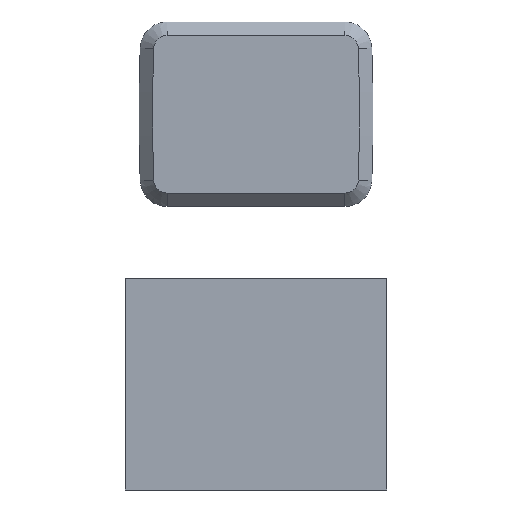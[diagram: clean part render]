
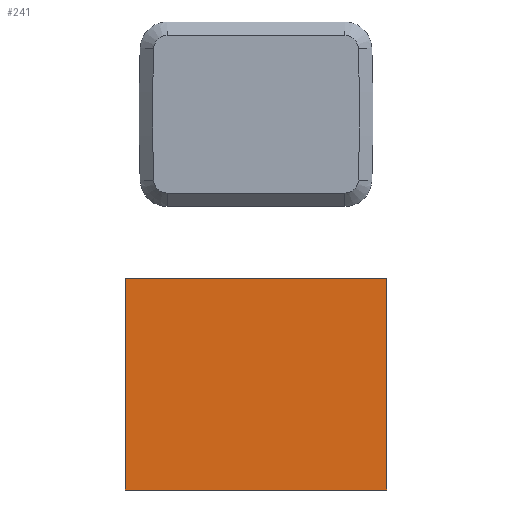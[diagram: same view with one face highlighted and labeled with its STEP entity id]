
A CAD part, front view. The second image highlights one B-rep face of the part: STEP entity #241.
In plain terms, the highlighted planar face has unit normal (0, -1, 0).
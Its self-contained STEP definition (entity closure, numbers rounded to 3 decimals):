
#5 = VECTOR ( 'NONE', #260, 1000. ) ;
#9 = VERTEX_POINT ( 'NONE', #439 ) ;
#71 = VERTEX_POINT ( 'NONE', #901 ) ;
#208 = CARTESIAN_POINT ( 'NONE',  ( -145., -15., -182.5 ) ) ;
#241 = ADVANCED_FACE ( 'NONE', ( #823 ), #734, .F. ) ;
#250 = CARTESIAN_POINT ( 'NONE',  ( -145., -15., -417.5 ) ) ;
#260 = DIRECTION ( 'NONE',  ( 1., 0., 0. ) ) ;
#297 = DIRECTION ( 'NONE',  ( -1., 0., 0. ) ) ;
#332 = CARTESIAN_POINT ( 'NONE',  ( 145., -15., -182.5 ) ) ;
#394 = LINE ( 'NONE', #332, #710 ) ;
#408 = EDGE_CURVE ( 'NONE', #71, #448, #861, .T. ) ;
#411 = DIRECTION ( 'NONE',  ( 0., 0., -1. ) ) ;
#439 = CARTESIAN_POINT ( 'NONE',  ( 145., -15., -417.5 ) ) ;
#448 = VERTEX_POINT ( 'NONE', #577 ) ;
#493 = EDGE_CURVE ( 'NONE', #448, #689, #520, .T. ) ;
#520 = LINE ( 'NONE', #208, #780 ) ;
#545 = EDGE_LOOP ( 'NONE', ( #802, #992, #750, #591 ) ) ;
#561 = VECTOR ( 'NONE', #297, 1000. ) ;
#577 = CARTESIAN_POINT ( 'NONE',  ( -145., -15., -182.5 ) ) ;
#586 = CARTESIAN_POINT ( 'NONE',  ( -145., -15., -182.5 ) ) ;
#591 = ORIENTED_EDGE ( 'NONE', *, *, #1015, .T. ) ;
#687 = AXIS2_PLACEMENT_3D ( 'NONE', #1188, #1118, #738 ) ;
#689 = VERTEX_POINT ( 'NONE', #1133 ) ;
#710 = VECTOR ( 'NONE', #896, 1000. ) ;
#734 = PLANE ( 'NONE',  #687 ) ;
#738 = DIRECTION ( 'NONE',  ( 0., 0., 1. ) ) ;
#750 = ORIENTED_EDGE ( 'NONE', *, *, #493, .T. ) ;
#780 = VECTOR ( 'NONE', #411, 1000. ) ;
#796 = LINE ( 'NONE', #250, #5 ) ;
#802 = ORIENTED_EDGE ( 'NONE', *, *, #928, .T. ) ;
#823 = FACE_OUTER_BOUND ( 'NONE', #545, .T. ) ;
#861 = LINE ( 'NONE', #586, #561 ) ;
#896 = DIRECTION ( 'NONE',  ( 0., 0., 1. ) ) ;
#901 = CARTESIAN_POINT ( 'NONE',  ( 145., -15., -182.5 ) ) ;
#928 = EDGE_CURVE ( 'NONE', #9, #71, #394, .T. ) ;
#992 = ORIENTED_EDGE ( 'NONE', *, *, #408, .T. ) ;
#1015 = EDGE_CURVE ( 'NONE', #689, #9, #796, .T. ) ;
#1118 = DIRECTION ( 'NONE',  ( 0., 1., 0. ) ) ;
#1133 = CARTESIAN_POINT ( 'NONE',  ( -145., -15., -417.5 ) ) ;
#1188 = CARTESIAN_POINT ( 'NONE',  ( 0., -15., -300. ) ) ;
